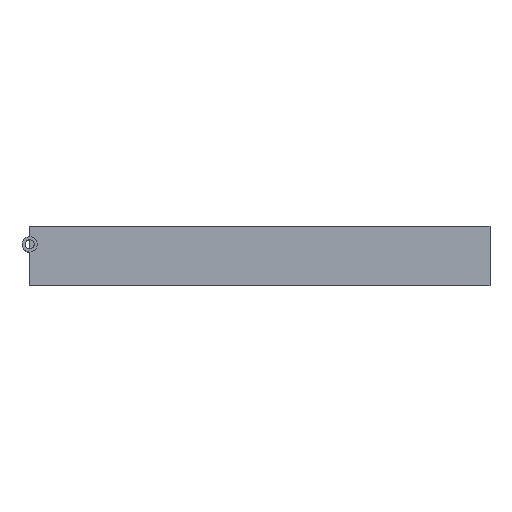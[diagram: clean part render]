
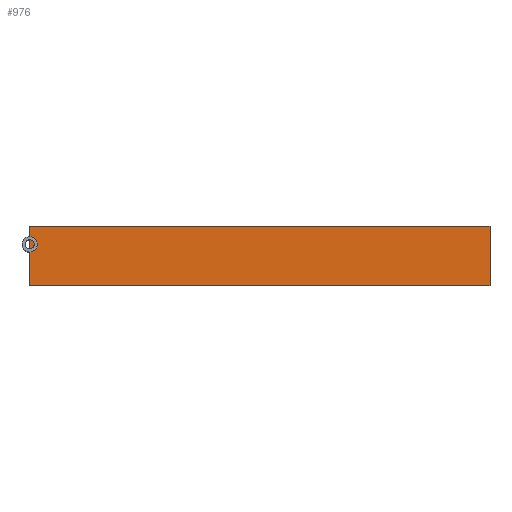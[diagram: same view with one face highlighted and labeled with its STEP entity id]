
A CAD part, top view. The second image highlights one B-rep face of the part: STEP entity #976.
In plain terms, the highlighted planar face has unit normal (0, 0, 1).
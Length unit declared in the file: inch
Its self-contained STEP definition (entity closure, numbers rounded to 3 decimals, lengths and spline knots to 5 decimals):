
#80=LINE('',#15867,#134);
#88=LINE('',#15882,#142);
#89=LINE('',#15884,#143);
#90=LINE('',#15885,#144);
#134=VECTOR('',#1301,1.);
#142=VECTOR('',#1313,1.);
#143=VECTOR('',#1316,1.);
#144=VECTOR('',#1317,1.);
#290=FACE_OUTER_BOUND('',#371,.T.);
#371=EDGE_LOOP('',(#886,#887,#888,#889));
#500=VERTEX_POINT('',#15863);
#502=VERTEX_POINT('',#15866);
#506=VERTEX_POINT('',#15878);
#507=VERTEX_POINT('',#15880);
#627=EDGE_CURVE('',#500,#502,#80,.T.);
#635=EDGE_CURVE('',#506,#507,#88,.T.);
#636=EDGE_CURVE('',#506,#500,#89,.T.);
#637=EDGE_CURVE('',#502,#507,#90,.T.);
#886=ORIENTED_EDGE('',*,*,#636,.F.);
#887=ORIENTED_EDGE('',*,*,#635,.T.);
#888=ORIENTED_EDGE('',*,*,#637,.F.);
#889=ORIENTED_EDGE('',*,*,#627,.F.);
#918=PLANE('',#1075);
#976=ADVANCED_FACE('',(#290),#918,.T.);
#1075=AXIS2_PLACEMENT_3D('',#15883,#1314,#1315);
#1301=DIRECTION('',(1.,0.,0.));
#1313=DIRECTION('',(1.,0.,0.));
#1314=DIRECTION('center_axis',(0.,0.,1.));
#1315=DIRECTION('ref_axis',(0.,-1.,0.));
#1316=DIRECTION('',(0.,1.,0.));
#1317=DIRECTION('',(0.,-1.,0.));
#15863=CARTESIAN_POINT('',(0.,1.1875,1.));
#15866=CARTESIAN_POINT('',(30.,1.1875,1.));
#15867=CARTESIAN_POINT('',(0.,1.1875,1.));
#15878=CARTESIAN_POINT('',(0.,-2.6875,1.));
#15880=CARTESIAN_POINT('',(30.,-2.6875,1.));
#15882=CARTESIAN_POINT('',(0.,-2.6875,1.));
#15883=CARTESIAN_POINT('Origin',(0.,1.1875,1.));
#15884=CARTESIAN_POINT('',(0.,-2.6875,1.));
#15885=CARTESIAN_POINT('',(30.,-2.6875,1.));
